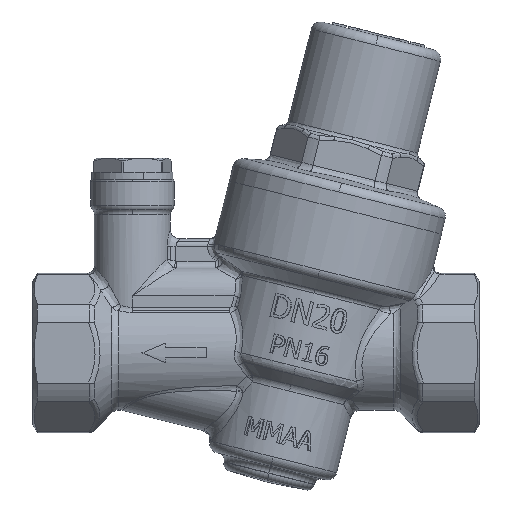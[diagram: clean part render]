
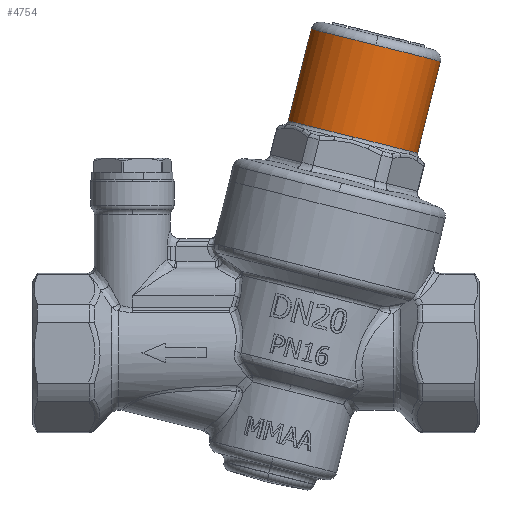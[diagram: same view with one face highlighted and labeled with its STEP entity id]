
A CAD part, top view. The second image highlights one B-rep face of the part: STEP entity #4754.
In plain terms, the highlighted cylindrical face has radius 14 mm (diameter 28 mm), a partial arc.
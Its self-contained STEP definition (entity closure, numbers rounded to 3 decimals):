
#1471 = AXIS2_PLACEMENT_3D ( 'NONE', #16696, #29023, #35407 ) ;
#4038 = VERTEX_POINT ( 'NONE', #6646 ) ;
#4380 = DIRECTION ( 'NONE',  ( -1., 0., 0. ) ) ;
#4754 = ADVANCED_FACE ( 'NONE', ( #23957 ), #36471, .T. ) ;
#5546 = EDGE_CURVE ( 'NONE', #36463, #9225, #15562, .T. ) ;
#5672 = EDGE_LOOP ( 'NONE', ( #38156, #26124, #13000, #37278, #29233, #15515 ) ) ;
#6646 = CARTESIAN_POINT ( 'NONE',  ( 14., 23.94, 0. ) ) ;
#7403 = CIRCLE ( 'NONE', #1471, 14. ) ;
#8345 = DIRECTION ( 'NONE',  ( 0., -1., 0. ) ) ;
#9225 = VERTEX_POINT ( 'NONE', #20741 ) ;
#10231 = VECTOR ( 'NONE', #38698, 1000. ) ;
#11653 = CARTESIAN_POINT ( 'NONE',  ( 0., 4.048, -14. ) ) ;
#13000 = ORIENTED_EDGE ( 'NONE', *, *, #14047, .F. ) ;
#14047 = EDGE_CURVE ( 'NONE', #4038, #23027, #37500, .T. ) ;
#14925 = EDGE_CURVE ( 'NONE', #23027, #36463, #7403, .T. ) ;
#14939 = DIRECTION ( 'NONE',  ( 0., -1., 0. ) ) ;
#15175 = AXIS2_PLACEMENT_3D ( 'NONE', #37607, #34928, #37809 ) ;
#15515 = ORIENTED_EDGE ( 'NONE', *, *, #29169, .F. ) ;
#15562 = LINE ( 'NONE', #30963, #18492 ) ;
#15936 = VERTEX_POINT ( 'NONE', #35948 ) ;
#16696 = CARTESIAN_POINT ( 'NONE',  ( 0., 23.94, 0. ) ) ;
#17678 = EDGE_CURVE ( 'NONE', #4038, #15936, #35621, .T. ) ;
#18028 = AXIS2_PLACEMENT_3D ( 'NONE', #30486, #24567, #30893 ) ;
#18492 = VECTOR ( 'NONE', #14939, 1000. ) ;
#20741 = CARTESIAN_POINT ( 'NONE',  ( -14., 4.048, 0. ) ) ;
#22522 = EDGE_CURVE ( 'NONE', #26303, #15936, #37345, .T. ) ;
#23027 = VERTEX_POINT ( 'NONE', #24744 ) ;
#23957 = FACE_OUTER_BOUND ( 'NONE', #5672, .T. ) ;
#24567 = DIRECTION ( 'NONE',  ( 0., -1., 0. ) ) ;
#24744 = CARTESIAN_POINT ( 'NONE',  ( 0., 23.94, -14. ) ) ;
#26124 = ORIENTED_EDGE ( 'NONE', *, *, #14925, .F. ) ;
#26303 = VERTEX_POINT ( 'NONE', #11653 ) ;
#27210 = CARTESIAN_POINT ( 'NONE',  ( 0., 14.706, 0. ) ) ;
#29023 = DIRECTION ( 'NONE',  ( 0., 1., 0. ) ) ;
#29169 = EDGE_CURVE ( 'NONE', #9225, #26303, #31767, .T. ) ;
#29199 = CARTESIAN_POINT ( 'NONE',  ( 0., 4.048, 0. ) ) ;
#29233 = ORIENTED_EDGE ( 'NONE', *, *, #22522, .F. ) ;
#29621 = CARTESIAN_POINT ( 'NONE',  ( -14., 23.94, 0. ) ) ;
#30486 = CARTESIAN_POINT ( 'NONE',  ( 0., 4.048, 0. ) ) ;
#30893 = DIRECTION ( 'NONE',  ( -1., 0., 0. ) ) ;
#30963 = CARTESIAN_POINT ( 'NONE',  ( -14., 14.706, 0. ) ) ;
#31767 = CIRCLE ( 'NONE', #18028, 14. ) ;
#32892 = CARTESIAN_POINT ( 'NONE',  ( 14., 14.706, 0. ) ) ;
#33381 = DIRECTION ( 'NONE',  ( 1., 0., 0. ) ) ;
#33865 = AXIS2_PLACEMENT_3D ( 'NONE', #27210, #8345, #33381 ) ;
#34928 = DIRECTION ( 'NONE',  ( 0., 1., 0. ) ) ;
#35401 = AXIS2_PLACEMENT_3D ( 'NONE', #29199, #38671, #4380 ) ;
#35407 = DIRECTION ( 'NONE',  ( -1., 0., 0. ) ) ;
#35621 = LINE ( 'NONE', #32892, #10231 ) ;
#35948 = CARTESIAN_POINT ( 'NONE',  ( 14., 4.048, 0. ) ) ;
#36463 = VERTEX_POINT ( 'NONE', #29621 ) ;
#36471 = CYLINDRICAL_SURFACE ( 'NONE', #33865, 14. ) ;
#37278 = ORIENTED_EDGE ( 'NONE', *, *, #17678, .T. ) ;
#37345 = CIRCLE ( 'NONE', #35401, 14. ) ;
#37500 = CIRCLE ( 'NONE', #15175, 14. ) ;
#37607 = CARTESIAN_POINT ( 'NONE',  ( 0., 23.94, 0. ) ) ;
#37809 = DIRECTION ( 'NONE',  ( -1., 0., 0. ) ) ;
#38156 = ORIENTED_EDGE ( 'NONE', *, *, #5546, .F. ) ;
#38671 = DIRECTION ( 'NONE',  ( 0., -1., 0. ) ) ;
#38698 = DIRECTION ( 'NONE',  ( 0., -1., 0. ) ) ;
